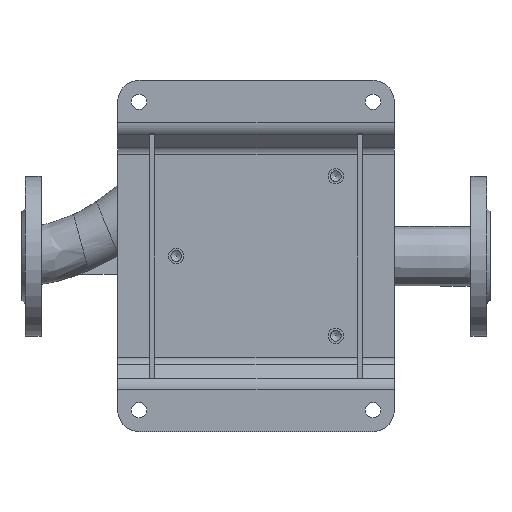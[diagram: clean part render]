
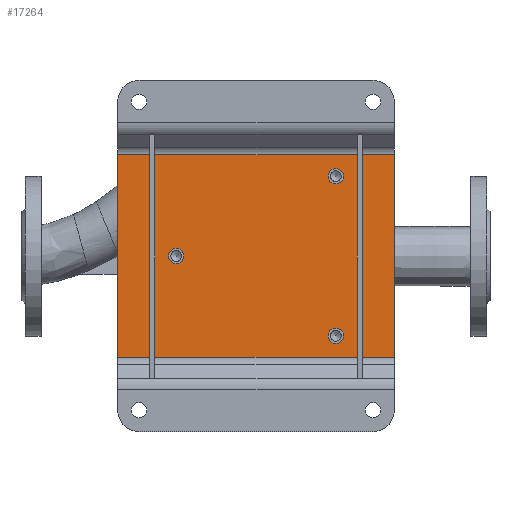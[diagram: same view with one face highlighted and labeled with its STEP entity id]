
A CAD part, top view. The second image highlights one B-rep face of the part: STEP entity #17264.
In plain terms, the highlighted planar face has unit normal (0, 0, 1) as drawn and (0, -1, 0) by its records, which use the part's own axes.
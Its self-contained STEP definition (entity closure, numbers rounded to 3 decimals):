
#424 = AXIS2_PLACEMENT_3D ( 'NONE', #38940, #27491, #5503 ) ;
#585 = EDGE_CURVE ( 'NONE', #14571, #14571, #24603, .T. ) ;
#1308 = FACE_BOUND ( 'NONE', #37039, .T. ) ;
#2648 = DIRECTION ( 'NONE',  ( 0., 0., -1. ) ) ;
#3654 = LINE ( 'NONE', #11226, #32240 ) ;
#4930 = DIRECTION ( 'NONE',  ( 0., 0., -1. ) ) ;
#5211 = CARTESIAN_POINT ( 'NONE',  ( -75., -5., 67.75 ) ) ;
#5503 = DIRECTION ( 'NONE',  ( 0., 0., -1. ) ) ;
#5789 = CARTESIAN_POINT ( 'NONE',  ( -95., -5., 130. ) ) ;
#5937 = FACE_OUTER_BOUND ( 'NONE', #38013, .T. ) ;
#6050 = EDGE_CURVE ( 'NONE', #35844, #10070, #13601, .T. ) ;
#6326 = DIRECTION ( 'NONE',  ( 0., -1., 0. ) ) ;
#6608 = EDGE_LOOP ( 'NONE', ( #13913 ) ) ;
#6757 = CARTESIAN_POINT ( 'NONE',  ( 75., -5., 67.75 ) ) ;
#10070 = VERTEX_POINT ( 'NONE', #34265 ) ;
#10104 = VERTEX_POINT ( 'NONE', #47481 ) ;
#11226 = CARTESIAN_POINT ( 'NONE',  ( -95., -5., 130. ) ) ;
#11358 = ORIENTED_EDGE ( 'NONE', *, *, #25558, .F. ) ;
#13601 = LINE ( 'NONE', #5789, #14154 ) ;
#13913 = ORIENTED_EDGE ( 'NONE', *, *, #585, .F. ) ;
#14154 = VECTOR ( 'NONE', #36281, 1000. ) ;
#14385 = EDGE_CURVE ( 'NONE', #10070, #40332, #3654, .T. ) ;
#14571 = VERTEX_POINT ( 'NONE', #6757 ) ;
#15662 = CARTESIAN_POINT ( 'NONE',  ( 0., -5., -75. ) ) ;
#16218 = DIRECTION ( 'NONE',  ( 0., -1., 0. ) ) ;
#17264 = ADVANCED_FACE ( 'NONE', ( #42814, #27938, #1308, #5937 ), #24255, .T. ) ;
#17897 = LINE ( 'NONE', #29331, #27910 ) ;
#19660 = ORIENTED_EDGE ( 'NONE', *, *, #14385, .F. ) ;
#20830 = DIRECTION ( 'NONE',  ( 0., 0., -1. ) ) ;
#21518 = EDGE_LOOP ( 'NONE', ( #26996 ) ) ;
#22126 = CARTESIAN_POINT ( 'NONE',  ( 95., -5., 130. ) ) ;
#22144 = EDGE_CURVE ( 'NONE', #35059, #35844, #23487, .T. ) ;
#23487 = LINE ( 'NONE', #33949, #46592 ) ;
#24255 = PLANE ( 'NONE',  #43959 ) ;
#24603 = CIRCLE ( 'NONE', #424, 7.25 ) ;
#24846 = CIRCLE ( 'NONE', #31078, 7.25 ) ;
#25558 = EDGE_CURVE ( 'NONE', #40332, #35059, #17897, .T. ) ;
#26996 = ORIENTED_EDGE ( 'NONE', *, *, #30889, .F. ) ;
#27491 = DIRECTION ( 'NONE',  ( 0., -1., 0. ) ) ;
#27910 = VECTOR ( 'NONE', #40327, 1000. ) ;
#27938 = FACE_BOUND ( 'NONE', #21518, .T. ) ;
#29331 = CARTESIAN_POINT ( 'NONE',  ( 95., -5., 130. ) ) ;
#30552 = DIRECTION ( 'NONE',  ( -1., 0., 0. ) ) ;
#30889 = EDGE_CURVE ( 'NONE', #10104, #10104, #24846, .T. ) ;
#31078 = AXIS2_PLACEMENT_3D ( 'NONE', #15662, #34924, #4930 ) ;
#32084 = AXIS2_PLACEMENT_3D ( 'NONE', #43436, #6326, #2648 ) ;
#32240 = VECTOR ( 'NONE', #37846, 1000. ) ;
#32363 = ORIENTED_EDGE ( 'NONE', *, *, #22144, .F. ) ;
#33627 = CIRCLE ( 'NONE', #32084, 7.25 ) ;
#33906 = ORIENTED_EDGE ( 'NONE', *, *, #47785, .F. ) ;
#33949 = CARTESIAN_POINT ( 'NONE',  ( -95., -5., -130. ) ) ;
#34265 = CARTESIAN_POINT ( 'NONE',  ( -95., -5., 130. ) ) ;
#34924 = DIRECTION ( 'NONE',  ( 0., -1., 0. ) ) ;
#35059 = VERTEX_POINT ( 'NONE', #40036 ) ;
#35844 = VERTEX_POINT ( 'NONE', #44607 ) ;
#35976 = ORIENTED_EDGE ( 'NONE', *, *, #6050, .F. ) ;
#36281 = DIRECTION ( 'NONE',  ( 0., 0., 1. ) ) ;
#37039 = EDGE_LOOP ( 'NONE', ( #33906 ) ) ;
#37846 = DIRECTION ( 'NONE',  ( 1., 0., 0. ) ) ;
#38013 = EDGE_LOOP ( 'NONE', ( #11358, #19660, #35976, #32363 ) ) ;
#38940 = CARTESIAN_POINT ( 'NONE',  ( 75., -5., 75. ) ) ;
#40036 = CARTESIAN_POINT ( 'NONE',  ( 95., -5., -130. ) ) ;
#40327 = DIRECTION ( 'NONE',  ( 0., 0., -1. ) ) ;
#40332 = VERTEX_POINT ( 'NONE', #22126 ) ;
#42814 = FACE_BOUND ( 'NONE', #6608, .T. ) ;
#43280 = CARTESIAN_POINT ( 'NONE',  ( 0., -5., 0. ) ) ;
#43436 = CARTESIAN_POINT ( 'NONE',  ( -75., -5., 75. ) ) ;
#43959 = AXIS2_PLACEMENT_3D ( 'NONE', #43280, #16218, #20830 ) ;
#44607 = CARTESIAN_POINT ( 'NONE',  ( -95., -5., -130. ) ) ;
#46241 = VERTEX_POINT ( 'NONE', #5211 ) ;
#46592 = VECTOR ( 'NONE', #30552, 1000. ) ;
#47481 = CARTESIAN_POINT ( 'NONE',  ( 0., -5., -82.25 ) ) ;
#47785 = EDGE_CURVE ( 'NONE', #46241, #46241, #33627, .T. ) ;
